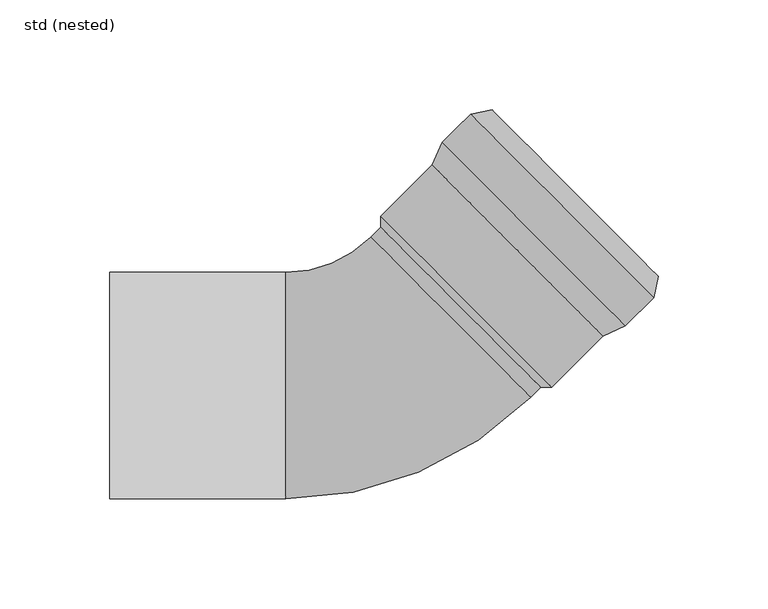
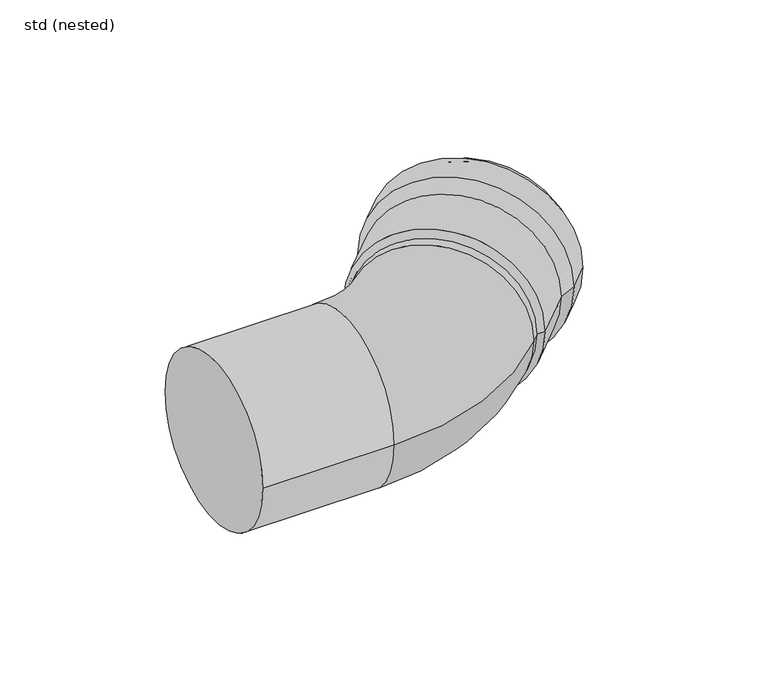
"""IFC4 building model written with IfcOpenShell, lengths in millimetres: pipe fitting geometry, ZZZ_do not use_PIF_ST_UN_GM-X pipe bend_ACO : std (nested)."""

from ifc_helpers import new_model, si_unit, point, frame, origin, place, context, project, spatial, polyline, circle_curve, ellipse_curve, trimmed, source, transform, mapped, element, save
from ifc_brep_helpers import plane_surface, cylinder_surface, revolved_surface, advanced_brep


def std_nested_4e8905ab(model_context):
    return source(origin(), model_context, "Body", "AdvancedBrep", [
        advanced_brep(
        [(110.6788446, 27.1559083, 0.0), (27.2913037, 110.6455365, 0.0), (40.1685175, 123.5070047, 0.0), (123.5560585, 40.0173765, 0.0), (100.4229865, 22.5659874, 0.0), (22.6888381, 100.3953018, 0.0), (49.9278005, 125.4809338, 0.0), (125.5419266, 49.774237, 0.0), (77.0741922, -0.7542571, 0.0), (-0.6599562, 77.0750573, 0.0), (72.1244456, -0.7512291, 0.0), (-0.6629842, 72.1253108, 0.0), (74.6008329, 1.7221302, 0.0), (1.8134031, 74.59867, 0.0), (99.270049, 24.2411581, 0.0), (24.362597, 99.2403156, 0.0), (0.753392, 75.6599789, 0.0), (75.660844, 0.6608213, 0.0), (109.5259072, 28.831079, 0.0), (28.9650625, 109.4905503, 0.0), (121.7164096, 41.0066755, 0.0), (41.155565, 121.6661468, 0.0), (123.5821091, 50.1731296, 0.0), (50.3242949, 123.5206297, 0.0)],
        [
            (0, 1, circle_curve(frame((68.9850741, 68.9007224, 0.0), z_axis=(0.7075392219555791, 0.7066740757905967, 0.0), x_axis=(-0.7066740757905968, 0.7075392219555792, 0.0)), 59.0)),
            (1, 2),
            (2, 3, circle_curve(frame((81.862288, 81.7621906, 0.0), z_axis=(-0.7075392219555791, -0.7066740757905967, 0.0), x_axis=(-0.7066740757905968, 0.7075392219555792, 0.0)), 59.0)),
            (3, 0),
            (1, 0, circle_curve(frame((68.9850741, 68.9007224, 0.0), z_axis=(0.7075392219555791, 0.7066740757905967, 0.0), x_axis=(-0.7066740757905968, 0.7075392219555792, 0.0)), 59.0)),
            (3, 2, circle_curve(frame((81.862288, 81.7621906, 0.0), z_axis=(-0.7075392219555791, -0.7066740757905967, 0.0), x_axis=(-0.7066740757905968, 0.7075392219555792, 0.0)), 59.0)),
            (4, 5, circle_curve(frame((61.5559123, 61.4806446, 0.0), z_axis=(0.7075392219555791, 0.7066740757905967, 0.0), x_axis=(-0.7066740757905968, 0.7075392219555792, 0.0)), 55.0)),
            (5, 1),
            (0, 4),
            (5, 4, circle_curve(frame((61.5559123, 61.4806446, 0.0), z_axis=(0.7075392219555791, 0.7066740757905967, 0.0), x_axis=(-0.7066740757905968, 0.7075392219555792, 0.0)), 55.0)),
            (2, 6),
            (6, 7, circle_curve(frame((87.7348635, 87.6275854, 0.0), z_axis=(-0.7075392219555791, -0.7066740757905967, 0.0), x_axis=(-0.7066740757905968, 0.7075392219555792, 0.0)), 53.5)),
            (7, 3),
            (7, 6, circle_curve(frame((87.7348635, 87.6275854, 0.0), z_axis=(-0.7075392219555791, -0.7066740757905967, 0.0), x_axis=(-0.7066740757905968, 0.7075392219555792, 0.0)), 53.5)),
            (8, 9, circle_curve(frame((38.207118, 38.1604001, 0.0), z_axis=(0.7075392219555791, 0.7066740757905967, 0.0), x_axis=(-0.7066740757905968, 0.7075392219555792, 0.0)), 55.0)),
            (9, 5),
            (4, 8),
            (9, 8, circle_curve(frame((38.207118, 38.1604001, 0.0), z_axis=(0.7075392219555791, 0.7066740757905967, 0.0), x_axis=(-0.7066740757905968, 0.7075392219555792, 0.0)), 55.0)),
            (10, 11, circle_curve(frame((35.7307307, 35.6870408, 0.0), z_axis=(0.7075392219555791, 0.7066740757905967, 0.0), x_axis=(-0.7066740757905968, 0.7075392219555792, 0.0)), 51.5)),
            (11, 9),
            (8, 10),
            (11, 10, circle_curve(frame((35.7307307, 35.6870408, 0.0), z_axis=(0.7075392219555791, 0.7066740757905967, 0.0), x_axis=(-0.7066740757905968, 0.7075392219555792, 0.0)), 51.5)),
            (12, 13, circle_curve(frame((38.207118, 38.1604001, 0.0), z_axis=(0.7075392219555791, 0.7066740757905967, 0.0), x_axis=(-0.7066740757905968, 0.7075392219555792, 0.0)), 51.5)),
            (13, 11),
            (10, 12),
            (13, 12, circle_curve(frame((38.207118, 38.1604001, 0.0), z_axis=(0.7075392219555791, 0.7066740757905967, 0.0), x_axis=(-0.7066740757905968, 0.7075392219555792, 0.0)), 51.5)),
            (14, 15, circle_curve(frame((61.816323, 61.7407369, 0.0), z_axis=(0.7075392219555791, 0.7066740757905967, 0.0), x_axis=(-0.7066740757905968, 0.7075392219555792, 0.0)), 53.0)),
            (15, 16),
            (16, 17, circle_curve(frame((38.207118, 38.1604001, 0.0), z_axis=(-0.7075392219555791, -0.7066740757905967, 0.0), x_axis=(-0.7066740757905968, 0.7075392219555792, 0.0)), 53.0)),
            (17, 14),
            (15, 14, circle_curve(frame((61.816323, 61.7407369, 0.0), z_axis=(0.7075392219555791, 0.7066740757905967, 0.0), x_axis=(-0.7066740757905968, 0.7075392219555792, 0.0)), 53.0)),
            (17, 16, circle_curve(frame((38.207118, 38.1604001, 0.0), z_axis=(-0.7075392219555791, -0.7066740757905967, 0.0), x_axis=(-0.7066740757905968, 0.7075392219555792, 0.0)), 53.0)),
            (18, 19, circle_curve(frame((69.2454848, 69.1608147, 0.0), z_axis=(0.7075392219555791, 0.7066740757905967, 0.0), x_axis=(-0.7066740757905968, 0.7075392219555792, 0.0)), 57.0)),
            (19, 15),
            (14, 18),
            (19, 18, circle_curve(frame((69.2454848, 69.1608147, 0.0), z_axis=(0.7075392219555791, 0.7066740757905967, 0.0), x_axis=(-0.7066740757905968, 0.7075392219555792, 0.0)), 57.0)),
            (20, 21, circle_curve(frame((81.4359873, 81.3364112, 0.0), z_axis=(0.7075392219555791, 0.7066740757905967, 0.0), x_axis=(-0.7066740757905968, 0.7075392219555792, 0.0)), 57.0)),
            (21, 19),
            (18, 20),
            (21, 20, circle_curve(frame((81.4359873, 81.3364112, 0.0), z_axis=(0.7075392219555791, 0.7066740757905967, 0.0), x_axis=(-0.7066740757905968, 0.7075392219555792, 0.0)), 57.0)),
            (22, 23, circle_curve(frame((86.953202, 86.8468796, 0.0), z_axis=(0.7075392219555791, 0.7066740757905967, 0.0), x_axis=(-0.7066740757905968, 0.7075392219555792, 0.0)), 51.8328156)),
            (23, 21),
            (20, 22),
            (23, 22, circle_curve(frame((86.953202, 86.8468796, 0.0), z_axis=(0.7075392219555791, 0.7066740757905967, 0.0), x_axis=(-0.7066740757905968, 0.7075392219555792, 0.0)), 51.8328156)),
            (6, 23),
            (22, 7),
            (16, 13),
            (12, 17),
        ],
        [
            cylinder_surface(frame((85.3606532, 85.2562781, 0.0), z_axis=(-0.7075392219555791, -0.7066740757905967, 0.0), x_axis=(-0.7066740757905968, 0.7075392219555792, 0.0)), 59.0),
            revolved_surface(polyline([(27.2913037, 110.6455365, 0.0), (22.6888381, 100.3953018, 0.0)]), (85.3606532, 85.2562781, 0.0), (-0.7075392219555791, -0.7066740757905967, 0.0)),
            revolved_surface(polyline([(49.9278005, 125.4809338, 0.0), (40.1685175, 123.5070047, 0.0)]), (85.3606532, 85.2562781, 0.0), (-0.7075392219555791, -0.7066740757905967, 0.0)),
            cylinder_surface(frame((85.3606532, 85.2562781, 0.0), z_axis=(-0.7075392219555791, -0.7066740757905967, 0.0), x_axis=(-0.7066740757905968, 0.7075392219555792, 0.0)), 55.0),
            revolved_surface(polyline([(-0.6599562, 77.0750573, 0.0), (-0.6629842, 72.1253108, 0.0)]), (85.3606532, 85.2562781, 0.0), (-0.7075392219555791, -0.7066740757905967, 0.0)),
            revolved_surface(polyline([(-0.6629841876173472, 72.12531071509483, 0.0), (1.8134031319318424, 74.59867002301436, 0.0)]), (85.3606532, 85.2562781, 0.0), (-0.7075392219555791, -0.7066740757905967, 0.0)),
            revolved_surface(polyline([(0.7533919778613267, 75.6599788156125, 0.0), (24.362597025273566, 99.24031562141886, 0.0)]), (85.3606532, 85.2562781, 0.0), (-0.7075392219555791, -0.7066740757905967, 0.0)),
            revolved_surface(polyline([(24.362597, 99.2403156, 0.0), (28.9650625, 109.4905503, 0.0)]), (85.3606532, 85.2562781, 0.0), (-0.7075392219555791, -0.7066740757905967, 0.0)),
            revolved_surface(polyline([(28.965062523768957, 109.49055027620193, 0.0), (41.15556503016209, 121.6661468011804, 0.0)]), (85.3606532, 85.2562781, 0.0), (-0.7075392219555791, -0.7066740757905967, 0.0)),
            revolved_surface(polyline([(41.155565, 121.6661468, 0.0), (50.3242949, 123.5206297, 0.0)]), (85.3606532, 85.2562781, 0.0), (-0.7075392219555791, -0.7066740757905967, 0.0)),
            revolved_surface(polyline([(50.3242949, 123.5206297, 0.0), (49.9278005, 125.4809338, 0.0)]), (85.3606532, 85.2562781, 0.0), (-0.7075392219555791, -0.7066740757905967, 0.0)),
            plane_surface(frame((38.207118, 38.1604001, 0.0), z_axis=(0.7075392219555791, 0.7066740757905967, 0.0), x_axis=(-0.7066740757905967, 0.7075392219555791, 0.0))),
        ],
        [
            (0, [[1, 2, 3, 4]]),
            (0, [[5, -4, 6, -2]]),
            (1, [[7, 8, -1, 9]]),
            (1, [[10, -9, -5, -8]]),
            (2, [[-3, 11, 12, 13]]),
            (2, [[-6, -13, 14, -11]]),
            (3, [[15, 16, -7, 17]]),
            (3, [[18, -17, -10, -16]]),
            (4, [[19, 20, -15, 21]]),
            (4, [[22, -21, -18, -20]]),
            (5, [[23, 24, -19, 25]]),
            (5, [[26, -25, -22, -24]]),
            (6, [[27, 28, 29, 30]]),
            (6, [[31, -30, 32, -28]]),
            (7, [[33, 34, -27, 35]]),
            (7, [[36, -35, -31, -34]]),
            (8, [[37, 38, -33, 39]]),
            (8, [[40, -39, -36, -38]]),
            (9, [[41, 42, -37, 43]]),
            (9, [[44, -43, -40, -42]]),
            (10, [[-12, 45, -41, 46]]),
            (10, [[-14, -46, -44, -45]]),
            (11, [[-29, 47, -23, 48]]),
            (11, [[-32, -48, -26, -47]]),
        ],
    ),
        advanced_brep(
        [(-5.2619891, 67.5319293, 0.0), (-44.0, 51.5, 0.0), (-44.0, -51.5, 0.0), (67.5254407, -5.3446106, 0.0), (31.1317258, 31.0936593, 51.5), (31.1317258, 31.0936593, -51.5), (-124.0, -51.5, 0.0), (-124.0, 51.5, 0.0), (74.6008329, 1.7221302, 0.0), (1.8134031, 74.59867, 0.0)],
        [
            (0, 1, circle_curve(frame((-44.0, 106.3173652, 0.0), z_axis=(0.0, 0.0, -1.0), x_axis=(0.0, -1.0, 0.0)), 54.8173652)),
            (1, 2, circle_curve(frame((-44.0, 0.0, 0.0), z_axis=(1.0, 0.0, 0.0), x_axis=(0.0, 1.0, 0.0)), 51.5)),
            (2, 3, circle_curve(frame((-44.0, 106.3173652, 0.0), z_axis=(0.0, 0.0, 1.0), x_axis=(0.0, -1.0, 0.0)), 157.8173652)),
            (3, 4, circle_curve(frame((31.1317258, 31.0936593, 0.0), z_axis=(-0.7075392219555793, -0.7066740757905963, 0.0), x_axis=(-0.7066740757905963, 0.7075392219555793, 0.0)), 51.5)),
            (4, 0, circle_curve(frame((31.1317258, 31.0936593, 0.0), z_axis=(-0.7075392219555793, -0.7066740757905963, 0.0), x_axis=(-0.7066740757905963, 0.7075392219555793, 0.0)), 51.5)),
            (0, 5, circle_curve(frame((31.1317258, 31.0936593, 0.0), z_axis=(-0.7075392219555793, -0.7066740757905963, 0.0), x_axis=(-0.7066740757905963, 0.7075392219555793, 0.0)), 51.5)),
            (5, 3, circle_curve(frame((31.1317258, 31.0936593, 0.0), z_axis=(-0.7075392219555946, -0.706674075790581, 0.0), x_axis=(-0.706674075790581, 0.7075392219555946, 0.0)), 51.5)),
            (2, 1, circle_curve(frame((-44.0, 0.0, 0.0), z_axis=(1.0, 0.0, 0.0), x_axis=(0.0, 1.0, 0.0)), 51.5)),
            (6, 7, circle_curve(frame((-124.0, 0.0, 0.0), z_axis=(-1.0, 0.0, 0.0), x_axis=(0.0, 1.0, 0.0)), 51.5)),
            (7, 6, circle_curve(frame((-124.0, 0.0, 0.0), z_axis=(-1.0, 0.0, 0.0), x_axis=(0.0, 1.0, 0.0)), 51.5)),
            (7, 1),
            (2, 6),
            (8, 9, circle_curve(frame((38.207118, 38.1604001, 0.0), z_axis=(0.7075392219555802, 0.7066740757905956, 0.0), x_axis=(-0.7066740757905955, 0.70753922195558, 0.0)), 51.5)),
            (9, 8, circle_curve(frame((38.207118, 38.1604001, 0.0), z_axis=(0.7075392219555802, 0.7066740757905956, 0.0), x_axis=(-0.7066740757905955, 0.70753922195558, 0.0)), 51.5)),
            (9, 0),
            (3, 8),
        ],
        [
            revolved_surface(trimmed(ellipse_curve(frame((-44.0, 0.0, 0.0), z_axis=(-1.0, 0.0, 0.0), x_axis=(0.0, 1.0, 0.0)), 51.5, 51.5), [point((-44.0, -51.5, 0.0))], [point((-44.0, 51.5, 0.0))], True, "CARTESIAN"), (-44.0, 106.3173652, 0.0), (0.0, 0.0, 1.0)),
            revolved_surface(trimmed(ellipse_curve(frame((-44.0, 0.0, 0.0), z_axis=(-1.0, 0.0, 0.0), x_axis=(0.0, 1.0, 0.0)), 51.5, 51.5), [point((-44.0, 51.5, 0.0))], [point((-44.0, -51.5, 0.0))], True, "CARTESIAN"), (-44.0, 106.3173652, 0.0), (0.0, 0.0, 1.0)),
            plane_surface(frame((-124.0, 51.5, 0.0), z_axis=(-1.0, 0.0, 0.0), x_axis=(0.0, 0.0, -1.0))),
            cylinder_surface(frame((-124.0, 0.0, 0.0), z_axis=(1.0, 0.0, 0.0), x_axis=(0.0, 1.0, 0.0)), 51.5),
            plane_surface(frame((38.207118, 38.1604001, 0.0), z_axis=(0.7075392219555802, 0.7066740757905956, 0.0), x_axis=(0.0, 0.0, 1.0))),
            cylinder_surface(frame((31.1317258, 31.0936593, 0.0), z_axis=(-0.70753922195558, -0.7066740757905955, 0.0), x_axis=(-0.7066740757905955, 0.70753922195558, 0.0)), 51.5),
        ],
        [
            (0, [[1, 2, 3, 4, 5]]),
            (1, [[-1, 6, 7, -3, 8]]),
            (2, [[9, 10]]),
            (3, [[-10, 11, -8, 12]]),
            (3, [[-9, -12, -2, -11]]),
            (4, [[13, 14]]),
            (5, [[-14, 15, -5, -4, 16]]),
            (5, [[-13, -16, -7, -6, -15]]),
        ],
    ),
    ])


if __name__ == "__main__":
    model = new_model("IFC4")
    model_context = context("Model", 3, world=origin())
    ifc_project = project(units=[si_unit("LENGTHUNIT", "METRE", prefix="MILLI")], contexts=[model_context])
    site = spatial("IfcSite", under=ifc_project)
    building = spatial("IfcBuilding", under=site)
    placement = place(None, origin())
    std_nested_shape = std_nested_4e8905ab(model_context)
    element("IfcPipeFitting", 1, ObjectType="ZZZ_do not use_PIF_ST_UN_GM-X pipe bend_ACO : std (nested)", at=placement, inside=building, context=model_context, shape_type="MappedRepresentation", body=[
        mapped(std_nested_shape, transform((0.0, 0.0, 0.0), x_axis=(1.0, 0.0, 0.0), y_axis=(0.0, 1.0, 0.0), z_axis=(0.0, 0.0, 1.0))),
    ])
    save(model, "model.ifc")
